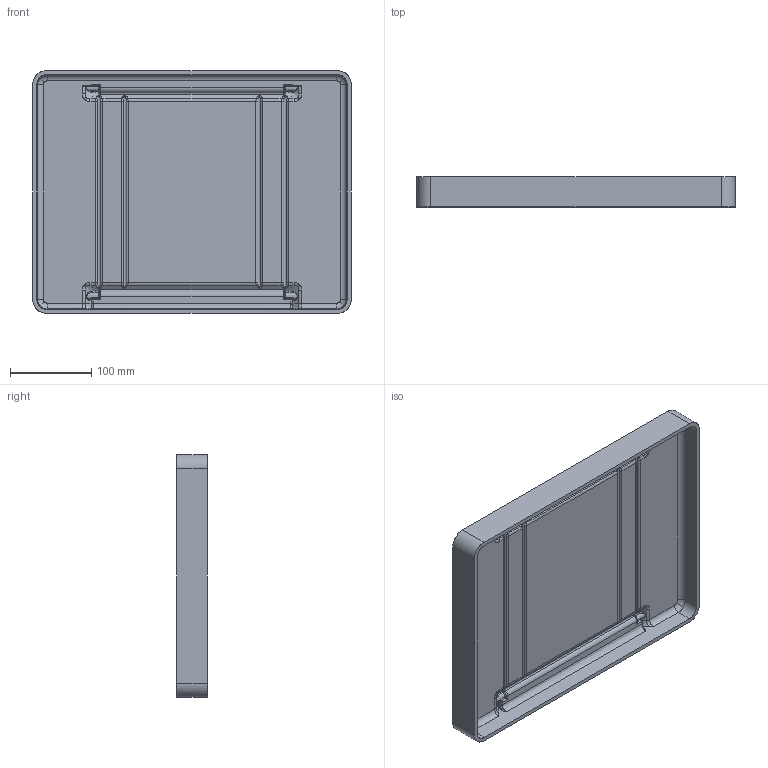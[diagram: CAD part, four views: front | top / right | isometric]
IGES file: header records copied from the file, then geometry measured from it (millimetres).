
Start section: SolidWorks IGES file using analytic representation for surfaces
Global section: file name: C:\Arnold\oem 1090\1090-CASE-TOP.IGS; native system: SolidWorks 2007; preprocessor: SolidWorks 2007; author: akameda; date: 080514.134744; units: inch
Bounding box: 390.85 x 37.21 x 298.14 mm (x, y, z)
Surface area: 316152.3 mm2 (no closed solid volume)
Topology: 0 solids, 0 shells, 217 faces, 1940 edges, 1932 vertices
Faces by surface type: bspline 132, revolution 85
